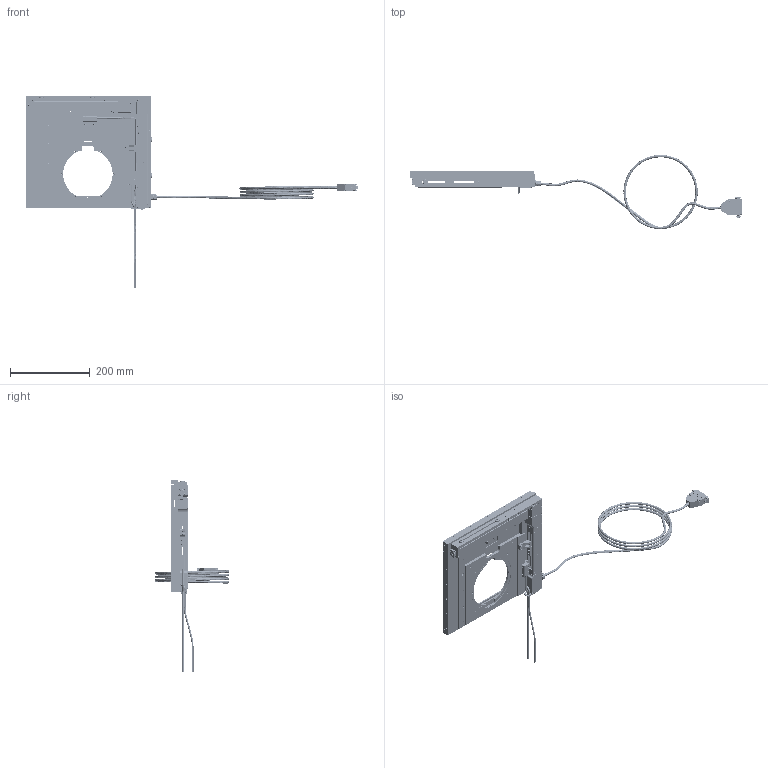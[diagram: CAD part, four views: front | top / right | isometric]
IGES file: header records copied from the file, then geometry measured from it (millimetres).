
Start section: SolidWorks IGES file using analytic representation for surfaces
Global section: file name: C:\1-DATA-FILES-FOR-PROJECTS\2022-PRODUCT-REFERENCE-MODELS\1-STAGE-REFERENCE-MODELS\H101F\H101E1F\2-H101E1F-REFERENCE-PARTS\H101E1F-REFERENCE-IGES.IGS; native system: SolidWorks 2019; preprocessor: SolidWorks 2019; author: jwilliams; date: 220303.150755; units: inch
Bounding box: 831.22 x 185.98 x 479.5 mm (x, y, z)
Surface area: 639428 mm2 (no closed solid volume)
Topology: 0 solids, 0 shells, 6840 faces, 79057 edges, 78848 vertices
Faces by surface type: bspline 4013, revolution 2827
